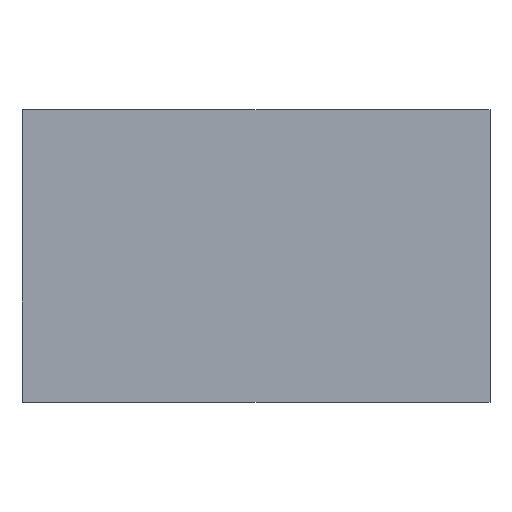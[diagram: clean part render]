
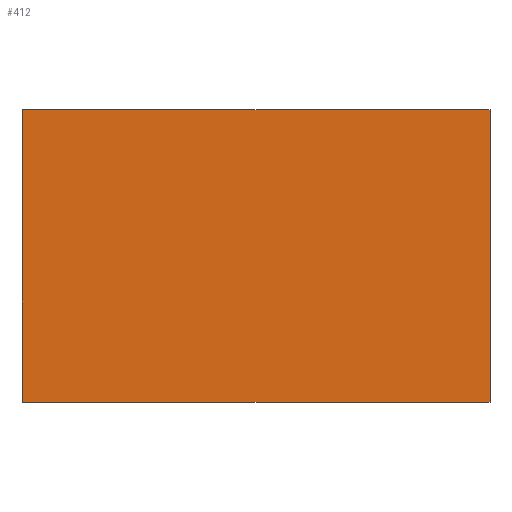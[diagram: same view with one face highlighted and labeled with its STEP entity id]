
A CAD part, top view. The second image highlights one B-rep face of the part: STEP entity #412.
In plain terms, the highlighted planar face has unit normal (0, 0, 1) as drawn and (0, 0, -1) by its records, which use the part's own axes.
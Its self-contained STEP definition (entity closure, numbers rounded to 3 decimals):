
#412=ADVANCED_FACE('',(#795),#797,.F.);
#795=FACE_BOUND('',#796,.T.);
#796=EDGE_LOOP('',(#1055,#1056,#1057,#1058));
#797=PLANE('',#798);
#798=AXIS2_PLACEMENT_3D('',#799,#800,#801);
#799=CARTESIAN_POINT('',(0.,0.,-0.055));
#800=DIRECTION('',(0.,0.,1.));
#801=DIRECTION('',(1.,0.,0.));
#1055=ORIENTED_EDGE('',*,*,#1220,.F.);
#1056=ORIENTED_EDGE('',*,*,#1217,.F.);
#1057=ORIENTED_EDGE('',*,*,#1214,.F.);
#1058=ORIENTED_EDGE('',*,*,#1211,.F.);
#1211=EDGE_CURVE('',#1355,#1357,#1358,.T.);
#1214=EDGE_CURVE('',#1357,#1362,#1363,.T.);
#1217=EDGE_CURVE('',#1362,#1367,#1368,.T.);
#1220=EDGE_CURVE('',#1367,#1355,#1371,.T.);
#1355=VERTEX_POINT('',#1638);
#1357=VERTEX_POINT('',#1642);
#1358=LINE('',#1643,#1644);
#1362=VERTEX_POINT('',#1653);
#1363=LINE('',#1654,#1655);
#1367=VERTEX_POINT('',#1664);
#1368=LINE('',#1665,#1666);
#1371=LINE('',#1674,#1675);
#1638=CARTESIAN_POINT('',(1.,-0.625,-0.055));
#1642=CARTESIAN_POINT('',(1.,0.625,-0.055));
#1643=CARTESIAN_POINT('',(1.,-0.625,-0.055));
#1644=VECTOR('',#1645,1.);
#1645=DIRECTION('',(0.,1.,0.));
#1653=CARTESIAN_POINT('',(-1.,0.625,-0.055));
#1654=CARTESIAN_POINT('',(1.,0.625,-0.055));
#1655=VECTOR('',#1656,1.);
#1656=DIRECTION('',(-1.,0.,0.));
#1664=CARTESIAN_POINT('',(-1.,-0.625,-0.055));
#1665=CARTESIAN_POINT('',(-1.,0.625,-0.055));
#1666=VECTOR('',#1667,1.);
#1667=DIRECTION('',(0.,-1.,0.));
#1674=CARTESIAN_POINT('',(-1.,-0.625,-0.055));
#1675=VECTOR('',#1676,1.);
#1676=DIRECTION('',(1.,0.,0.));
